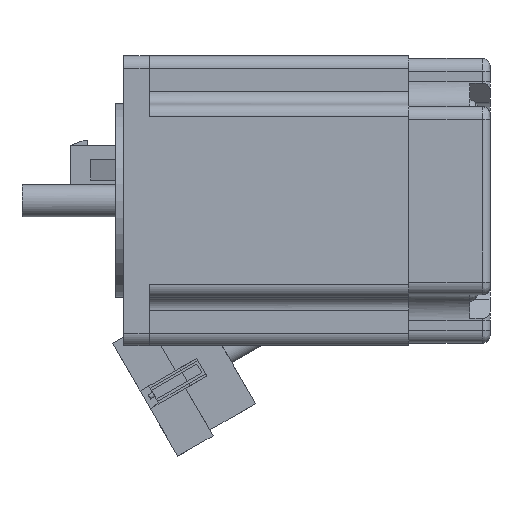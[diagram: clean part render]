
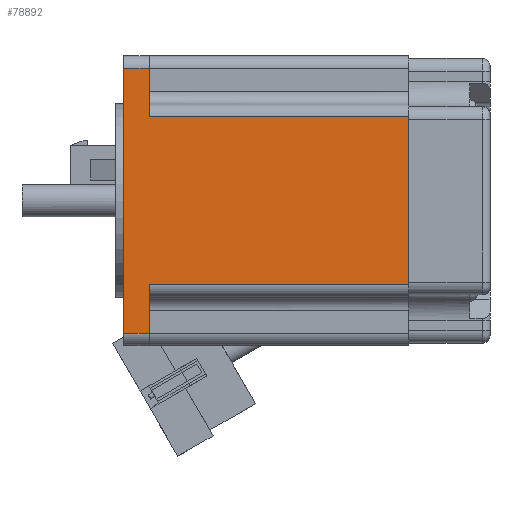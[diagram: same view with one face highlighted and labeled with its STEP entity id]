
A CAD part, front view. The second image highlights one B-rep face of the part: STEP entity #78892.
In plain terms, the highlighted planar face has unit normal (0, -1, 0).
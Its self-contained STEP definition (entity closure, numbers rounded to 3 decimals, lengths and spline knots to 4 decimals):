
#10076=LINE('',#124247,#20689);
#10077=LINE('',#124253,#20690);
#10091=LINE('',#124288,#20704);
#10098=LINE('',#124305,#20711);
#10117=LINE('',#124347,#20730);
#10118=LINE('',#124349,#20731);
#10119=LINE('',#124351,#20732);
#10120=LINE('',#124352,#20733);
#20689=VECTOR('',#100774,2.0079);
#20690=VECTOR('',#100779,2.0079);
#20704=VECTOR('',#100817,0.374);
#20711=VECTOR('',#100836,0.374);
#20730=VECTOR('',#100877,1.2992);
#20731=VECTOR('',#100878,0.1969);
#20732=VECTOR('',#100879,2.0472);
#20733=VECTOR('',#100880,0.1969);
#24940=PLANE('',#82955);
#28873=FACE_OUTER_BOUND('',#32841,.T.);
#32841=EDGE_LOOP('',(#73070,#73071,#73072,#73073,#73074,#73075,#73076,#73077));
#40721=VERTEX_POINT('',#124241);
#40723=VERTEX_POINT('',#124245);
#40724=VERTEX_POINT('',#124249);
#40726=VERTEX_POINT('',#124252);
#40735=VERTEX_POINT('',#124287);
#40739=VERTEX_POINT('',#124303);
#40752=VERTEX_POINT('',#124348);
#40753=VERTEX_POINT('',#124350);
#51610=EDGE_CURVE('',#40721,#40723,#10076,.T.);
#51612=EDGE_CURVE('',#40726,#40724,#10077,.T.);
#51631=EDGE_CURVE('',#40721,#40735,#10091,.T.);
#51641=EDGE_CURVE('',#40739,#40724,#10098,.T.);
#51664=EDGE_CURVE('',#40723,#40726,#10117,.T.);
#51665=EDGE_CURVE('',#40739,#40752,#10118,.T.);
#51666=EDGE_CURVE('',#40753,#40752,#10119,.T.);
#51667=EDGE_CURVE('',#40753,#40735,#10120,.T.);
#73070=ORIENTED_EDGE('',*,*,#51664,.T.);
#73071=ORIENTED_EDGE('',*,*,#51612,.T.);
#73072=ORIENTED_EDGE('',*,*,#51641,.F.);
#73073=ORIENTED_EDGE('',*,*,#51665,.T.);
#73074=ORIENTED_EDGE('',*,*,#51666,.F.);
#73075=ORIENTED_EDGE('',*,*,#51667,.T.);
#73076=ORIENTED_EDGE('',*,*,#51631,.F.);
#73077=ORIENTED_EDGE('',*,*,#51610,.T.);
#78892=ADVANCED_FACE('',(#28873),#24940,.F.);
#82955=AXIS2_PLACEMENT_3D('',#124346,#100875,#100876);
#100774=DIRECTION('',(1.,0.,0.));
#100779=DIRECTION('',(-1.,0.,0.));
#100817=DIRECTION('',(0.,0.,-1.));
#100836=DIRECTION('',(0.,0.,-1.));
#100875=DIRECTION('center_axis',(0.,1.,0.));
#100876=DIRECTION('ref_axis',(-1.,0.,0.));
#100877=DIRECTION('',(0.,0.,1.));
#100878=DIRECTION('',(-1.,0.,0.));
#100879=DIRECTION('',(0.,0.,1.));
#100880=DIRECTION('',(1.,0.,0.));
#124241=CARTESIAN_POINT('',(-2.0079,-0.9637,-0.7106));
#124245=CARTESIAN_POINT('',(0.,-0.9637,-0.7106));
#124247=CARTESIAN_POINT('',(-2.2047,-0.9637,-0.7106));
#124249=CARTESIAN_POINT('',(-2.0079,-0.9637,0.5886));
#124252=CARTESIAN_POINT('',(0.,-0.9637,0.5886));
#124253=CARTESIAN_POINT('',(-2.2047,-0.9637,0.5886));
#124287=CARTESIAN_POINT('',(-2.0079,-0.9637,-1.0846));
#124288=CARTESIAN_POINT('',(-2.0079,-0.9637,-0.809));
#124303=CARTESIAN_POINT('',(-2.0079,-0.9637,0.9626));
#124305=CARTESIAN_POINT('',(-2.0079,-0.9637,0.9626));
#124346=CARTESIAN_POINT('Origin',(-2.2047,-0.9637,
-1.1831));
#124347=CARTESIAN_POINT('',(0.,-0.9637,-1.1831));
#124348=CARTESIAN_POINT('',(-2.2047,-0.9637,0.9626));
#124349=CARTESIAN_POINT('',(-2.2047,-0.9637,0.9626));
#124350=CARTESIAN_POINT('',(-2.2047,-0.9637,-1.0846));
#124351=CARTESIAN_POINT('',(-2.2047,-0.9637,-1.1831));
#124352=CARTESIAN_POINT('',(-2.2047,-0.9637,-1.0846));
